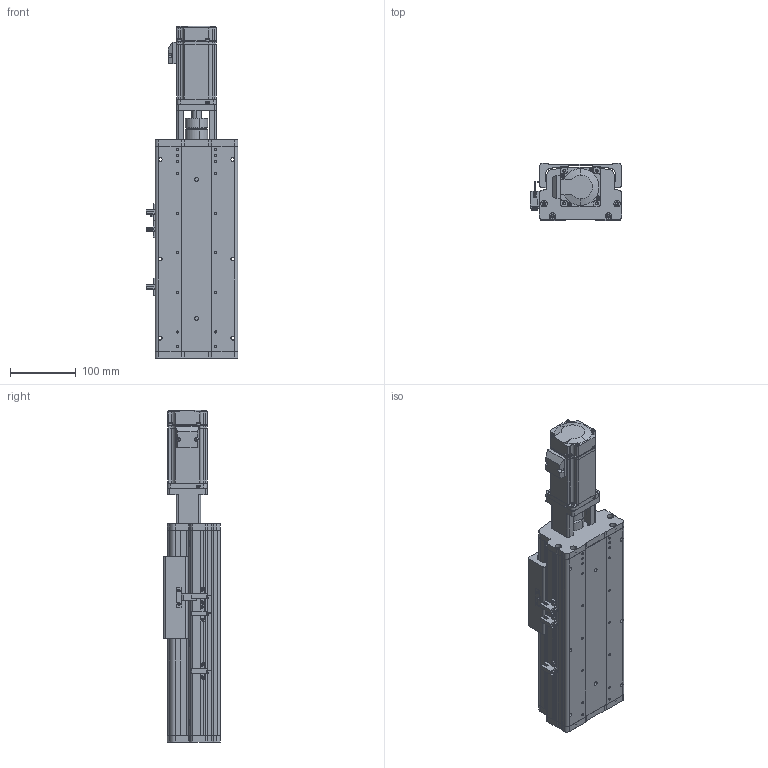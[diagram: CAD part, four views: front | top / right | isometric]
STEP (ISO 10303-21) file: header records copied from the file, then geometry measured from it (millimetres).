
FILE_DESCRIPTION (( 'STEP AP214' ), '1' );
FILE_NAME ('KSD125S-S100-MT-CM.STEP', '2017-08-07T06:31:02', ( '微软用户' ), ( '微软中国' ), 'SwSTEP 2.0', 'SolidWorks 2014', '' );
FILE_SCHEMA (( 'AUTOMOTIVE_DESIGN' ));
Length unit declared in the file: millimetre
Products named in the file (13): KSD125S-100俴最佪裝菁啣; KSD125S-100俴最佪裝滅鳥裔; MHMD042G1CA_2_03; 100遵鎮湛假蚾啣1 ; 拸萇儂釱滅袉菜; 覜茼え68遵圉猾敕; U倰嫖萇假蚾璃; U倰嫖萇EEㄜSX672; ヶ傷啣-125遵耀郪; KSD125-賑雄釱1; CS-34X32-10X14; 125-帣傷啣1; KSD125S-S100-MT-CM
Assembly tree (16 placements, depth 2):
  KSD125S-S100-MT-CM
    125-帣傷啣1
    CS-34X32-10X14
    KSD125-賑雄釱1
    ヶ傷啣-125遵耀郪
    U倰嫖萇EEㄜSX672  x3
    U倰嫖萇假蚾璃  x3
    覜茼え68遵圉猾敕
    拸萇儂釱滅袉菜
    100遵鎮湛假蚾啣1 
    KSD125S-100俴最佪裝菁啣
    KSD125S-100俴最佪裝滅鳥裔
    MHMD042G1CA_2_03
Bounding box: 138.7 x 86 x 503.5 mm (x, y, z)
Volume: 1504475.5 mm3; surface area: 518832.6 mm2
Topology: 15 solids, 18 shells, 1464 faces, 4214 edges, 2771 vertices
Faces by surface type: cylinder 718, plane 633, cone 91, bspline 22
Entity records: 51139 total; most frequent: CARTESIAN_POINT 10830, DIRECTION 7308, ORIENTED_EDGE 6936, EDGE_CURVE 3546, AXIS2_PLACEMENT_3D 2675, VERTEX_POINT 2363, LINE 1958, VECTOR 1958
